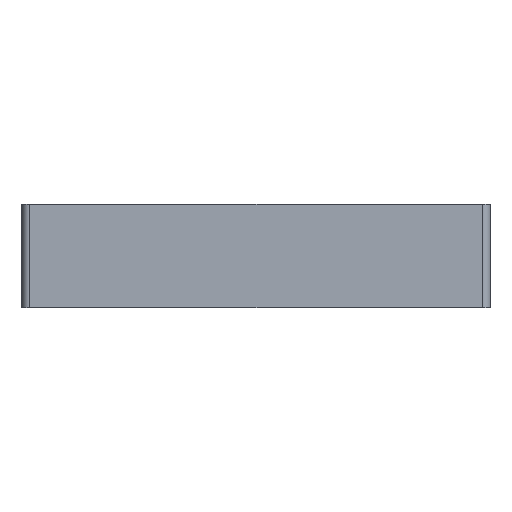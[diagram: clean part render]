
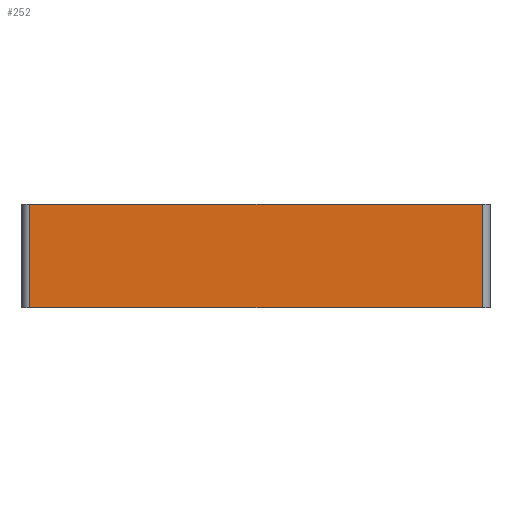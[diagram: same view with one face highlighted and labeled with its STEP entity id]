
A CAD part, left-side view. The second image highlights one B-rep face of the part: STEP entity #252.
In plain terms, the highlighted planar face has unit normal (-1, 0, 0).
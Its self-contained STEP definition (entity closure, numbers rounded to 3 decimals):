
#225=AXIS2_PLACEMENT_3D('Plane Axis2P3D',#222,#223,#224) ;
#196=CARTESIAN_POINT('Line Origine',(-16.,23.5,6.04)) ;
#200=CARTESIAN_POINT('Vertex',(-16.,23.5,13.3)) ;
#202=CARTESIAN_POINT('Vertex',(-16.,23.5,0.)) ;
#222=CARTESIAN_POINT('Axis2P3D Location',(-16.,24.5,0.)) ;
#227=CARTESIAN_POINT('Line Origine',(-16.,-5.5,13.3)) ;
#231=CARTESIAN_POINT('Vertex',(-16.,-34.5,13.3)) ;
#234=CARTESIAN_POINT('Line Origine',(-16.,-5.5,0.)) ;
#238=CARTESIAN_POINT('Vertex',(-16.,-34.5,0.)) ;
#241=CARTESIAN_POINT('Line Origine',(-16.,-34.5,6.65)) ;
#197=DIRECTION('Vector Direction',(0.,0.,1.)) ;
#223=DIRECTION('Axis2P3D Direction',(-1.,0.,0.)) ;
#224=DIRECTION('Axis2P3D XDirection',(0.,-1.,0.)) ;
#228=DIRECTION('Vector Direction',(0.,-1.,0.)) ;
#235=DIRECTION('Vector Direction',(0.,-1.,0.)) ;
#242=DIRECTION('Vector Direction',(0.,0.,-1.)) ;
#198=VECTOR('Line Direction',#197,1.) ;
#229=VECTOR('Line Direction',#228,1.) ;
#236=VECTOR('Line Direction',#235,1.) ;
#243=VECTOR('Line Direction',#242,1.) ;
#247=ORIENTED_EDGE('',*,*,#233,.F.) ;
#248=ORIENTED_EDGE('',*,*,#204,.T.) ;
#249=ORIENTED_EDGE('',*,*,#240,.T.) ;
#250=ORIENTED_EDGE('',*,*,#245,.F.) ;
#252=ADVANCED_FACE('\X2\96F64EF651E04F554F53\X0\',(#251),#226,.T.) ;
#204=EDGE_CURVE('',#201,#203,#199,.F.) ;
#233=EDGE_CURVE('',#201,#232,#230,.T.) ;
#240=EDGE_CURVE('',#203,#239,#237,.T.) ;
#245=EDGE_CURVE('',#232,#239,#244,.T.) ;
#246=EDGE_LOOP('',(#247,#248,#249,#250)) ;
#251=FACE_OUTER_BOUND('',#246,.T.) ;
#199=LINE('Line',#196,#198) ;
#230=LINE('Line',#227,#229) ;
#237=LINE('Line',#234,#236) ;
#244=LINE('Line',#241,#243) ;
#226=PLANE('',#225) ;
#201=VERTEX_POINT('',#200) ;
#203=VERTEX_POINT('',#202) ;
#232=VERTEX_POINT('',#231) ;
#239=VERTEX_POINT('',#238) ;
